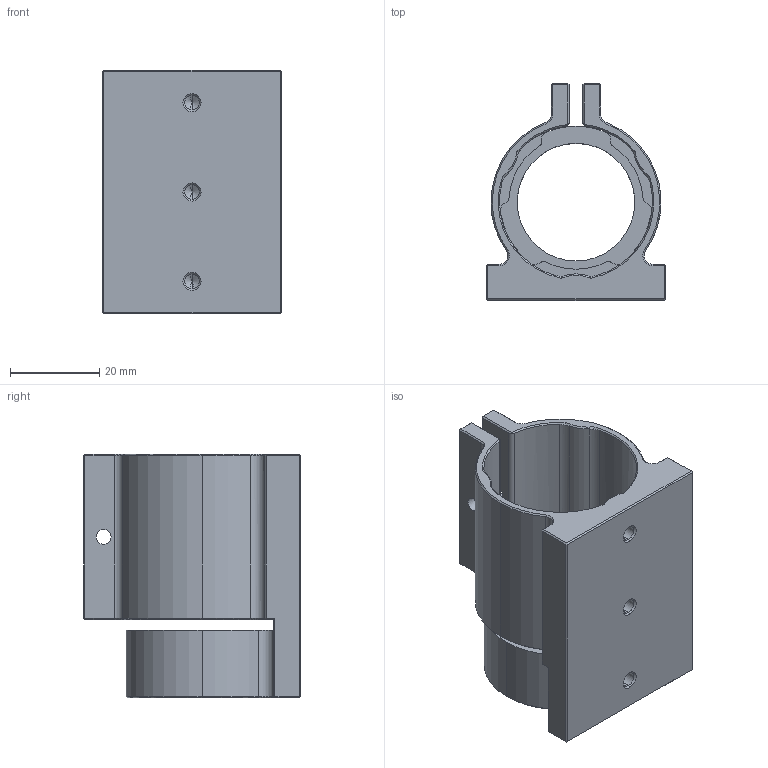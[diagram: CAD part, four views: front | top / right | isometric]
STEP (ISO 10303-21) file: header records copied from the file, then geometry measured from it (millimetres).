
FILE_DESCRIPTION (( 'STEP AP214' ), '1' );
FILE_NAME ('扜砉昜噩樓厥璃.STEP', '2026-06-13T01:12:50', ( '' ), ( '' ), 'SwSTEP 2.0', 'SolidWorks 2024', '' );
FILE_SCHEMA (( 'AUTOMOTIVE_DESIGN' ));
Length unit declared in the file: millimetre
Products named in the file (1): 摄像物镜加持件
Bounding box: 40 x 48.5 x 54.5 mm (x, y, z)
Volume: 29200.7 mm3; surface area: 16533.5 mm2
Topology: 1 solids, 1 shells, 182 faces, 443 edges, 260 vertices
Faces by surface type: plane 74, cylinder 62, cone 46
Entity records: 5339 total; most frequent: CARTESIAN_POINT 1027, DIRECTION 942, ORIENTED_EDGE 874, EDGE_CURVE 437, AXIS2_PLACEMENT_3D 349, VERTEX_POINT 260, LINE 244, VECTOR 244
